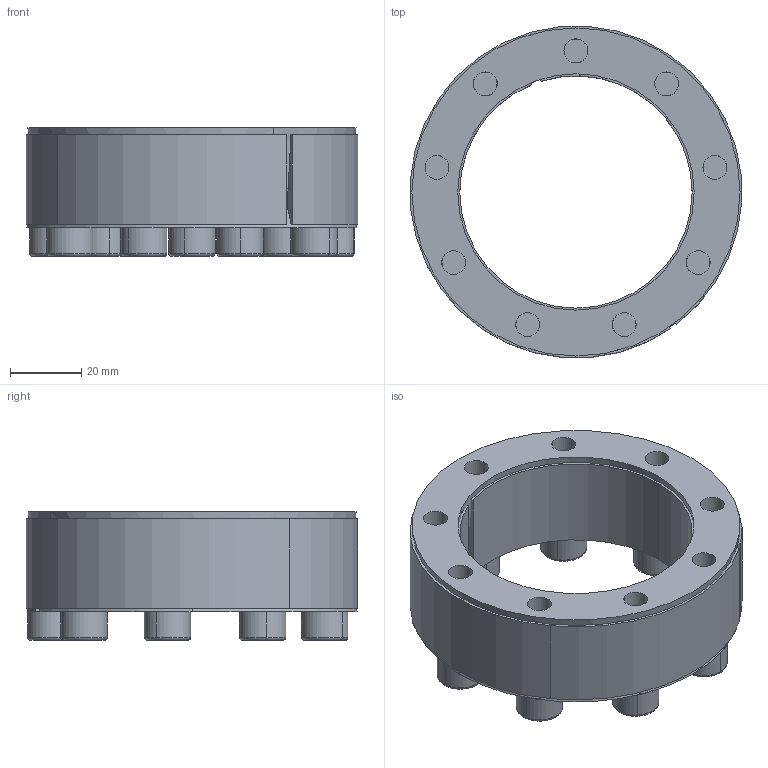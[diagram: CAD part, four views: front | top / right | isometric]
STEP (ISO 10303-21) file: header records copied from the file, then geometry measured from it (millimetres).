
FILE_DESCRIPTION (( 'STEP AP214' ), '1' );
FILE_NAME ('CONEX-L-65x93.step', '2013-04-06T13:23:15', ( 'Pc' ), ( '' ), 'SwSTEP 2.0', 'SolidWorks 2013', '' );
FILE_SCHEMA (( 'AUTOMOTIVE_DESIGN' ));
Length unit declared in the file: millimetre
Products named in the file (1): CONEX-L-65x93
Bounding box: 92.77 x 92.7 x 35.97 mm (x, y, z)
Volume: 92849.3 mm3; surface area: 60102.4 mm2
Topology: 12 solids, 12 shells, 318 faces, 727 edges, 433 vertices
Faces by surface type: plane 146, cylinder 84, cone 52, torus 36
Entity records: 12538 total; most frequent: DIRECTION 1680, CARTESIAN_POINT 1494, ORIENTED_EDGE 1418, EDGE_CURVE 709, AXIS2_PLACEMENT_3D 660, VERTEX_POINT 433, EDGE_LOOP 380, VECTOR 360
